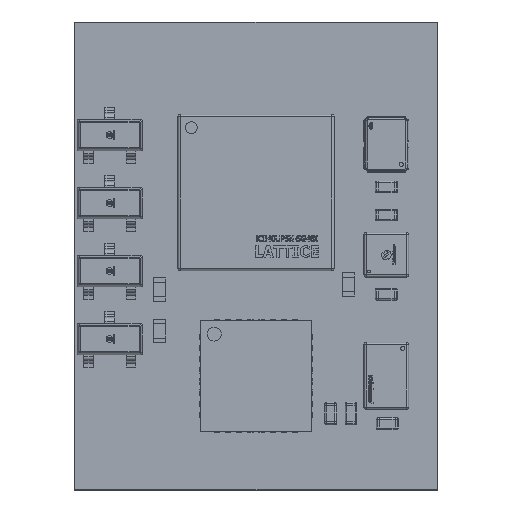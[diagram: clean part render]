
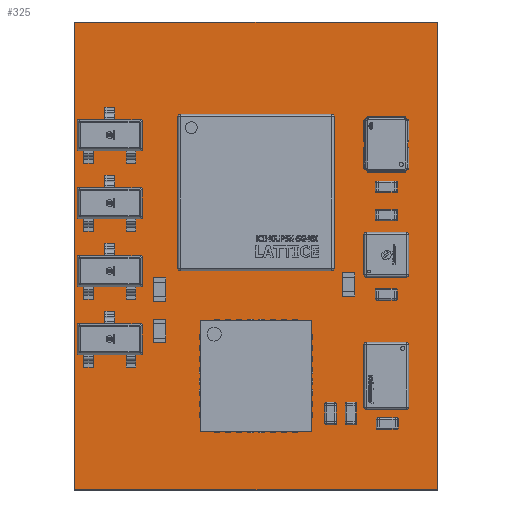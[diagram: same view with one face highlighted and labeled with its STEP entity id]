
A CAD part, top view. The second image highlights one B-rep face of the part: STEP entity #325.
In plain terms, the highlighted planar face has unit normal (0, 0, 1).
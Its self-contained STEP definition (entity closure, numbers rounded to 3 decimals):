
#196 = VERTEX_POINT('',#197);
#197 = CARTESIAN_POINT('',(-8.128,-13.335,1.591));
#203 = EDGE_CURVE('',#196,#204,#206,.T.);
#204 = VERTEX_POINT('',#205);
#205 = CARTESIAN_POINT('',(8.128,-13.335,1.591));
#206 = LINE('',#207,#208);
#207 = CARTESIAN_POINT('',(-8.128,-13.335,1.591));
#208 = VECTOR('',#209,1.);
#209 = DIRECTION('',(1.,0.,0.));
#234 = EDGE_CURVE('',#204,#235,#237,.T.);
#235 = VERTEX_POINT('',#236);
#236 = CARTESIAN_POINT('',(8.128,7.645,1.591));
#237 = LINE('',#238,#239);
#238 = CARTESIAN_POINT('',(8.128,-13.335,1.591));
#239 = VECTOR('',#240,1.);
#240 = DIRECTION('',(0.,1.,0.));
#265 = EDGE_CURVE('',#235,#266,#268,.T.);
#266 = VERTEX_POINT('',#267);
#267 = CARTESIAN_POINT('',(-8.128,7.645,1.591));
#268 = LINE('',#269,#270);
#269 = CARTESIAN_POINT('',(8.128,7.645,1.591));
#270 = VECTOR('',#271,1.);
#271 = DIRECTION('',(-1.,0.,0.));
#296 = EDGE_CURVE('',#266,#196,#297,.T.);
#297 = LINE('',#298,#299);
#298 = CARTESIAN_POINT('',(-8.128,7.645,1.591));
#299 = VECTOR('',#300,1.);
#300 = DIRECTION('',(0.,-1.,0.));
#325 = ADVANCED_FACE('',(#326),#332,.T.);
#326 = FACE_BOUND('',#327,.T.);
#327 = EDGE_LOOP('',(#328,#329,#330,#331));
#328 = ORIENTED_EDGE('',*,*,#203,.T.);
#329 = ORIENTED_EDGE('',*,*,#234,.T.);
#330 = ORIENTED_EDGE('',*,*,#265,.T.);
#331 = ORIENTED_EDGE('',*,*,#296,.T.);
#332 = PLANE('',#333);
#333 = AXIS2_PLACEMENT_3D('',#334,#335,#336);
#334 = CARTESIAN_POINT('',(0.,-2.845,1.591));
#335 = DIRECTION('',(0.,0.,1.));
#336 = DIRECTION('',(1.,0.,-0.));
